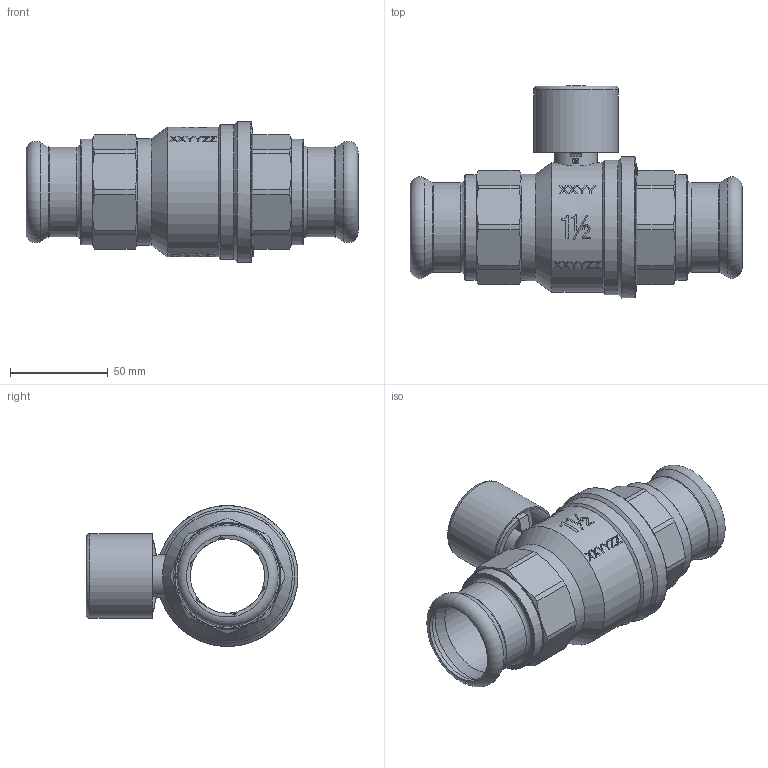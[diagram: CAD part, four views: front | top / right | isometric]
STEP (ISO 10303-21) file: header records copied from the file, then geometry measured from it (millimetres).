
FILE_DESCRIPTION((''),'2;1');
FILE_NAME('P:\Fastrack\53972_CRANE 3D\Press Fit\HATTERSLEY\100LS-PF\42MM\Fig_100LS-PF-42MM.stp','2011-12-12T11:25:54',('dcole'),(''),'Autodesk Inventor 2008','Autodesk Inventor 2008','');
FILE_SCHEMA(('AUTOMOTIVE_DESIGN { 1 0 10303 214 1 1 1 1 }'));
Length unit declared in the file: millimetre
Products named in the file (1): Fig_100LS-PF-42MM
Bounding box: 170.2 x 108.66 x 72.3 mm (x, y, z)
Volume: 232458.8 mm3; surface area: 83766.7 mm2
Topology: 1 solids, 1 shells, 888 faces, 2404 edges, 1579 vertices
Faces by surface type: plane 456, bspline 236, cylinder 111, cone 77, torus 8
Full cylindrical faces by diameter (mm): 3 x1, 12 x2, 12.1 x2, 12.5 x1, 16 x1, 16.3 x1, 16.5 x2, 22 x1, 28.2 x1, 30 x2, 36 x2, 39.5 x3, 39.7 x2, 41.4 x1, 42 x4, 43.4 x1, 44.845 x1, 44.854 x1, 46 x2, 54 x2, 54.5 x1, 66.6 x1, 69 x1, 72.3 x1
Entity records: 56877 total; most frequent: CARTESIAN_POINT 36190, ORIENTED_EDGE 4574, DIRECTION 3474, EDGE_CURVE 2287, VERTEX_POINT 1547, VECTOR 1216, LINE 1216, AXIS2_PLACEMENT_3D 1129
